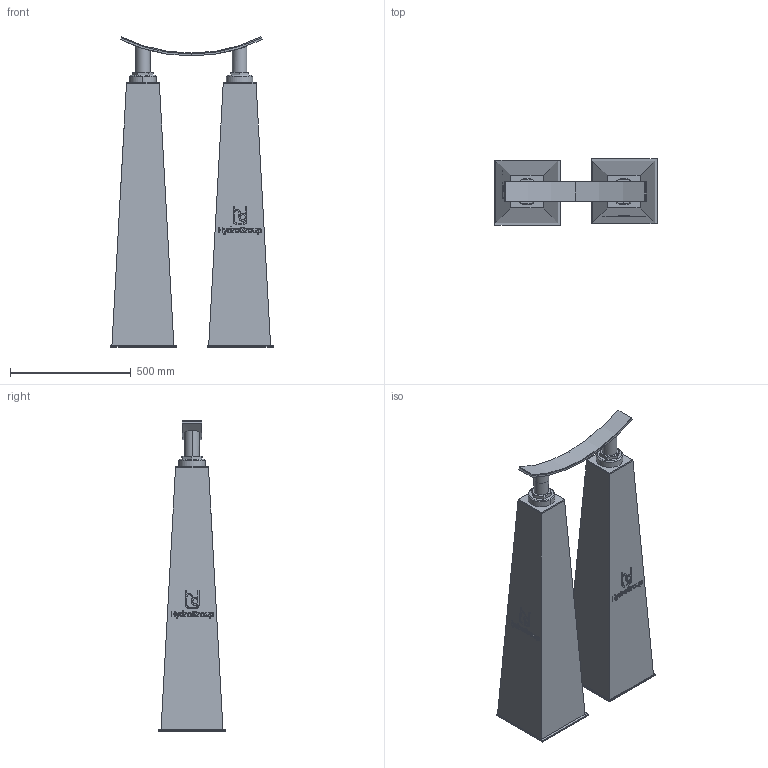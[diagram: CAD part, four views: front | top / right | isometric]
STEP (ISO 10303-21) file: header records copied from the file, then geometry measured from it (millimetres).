
FILE_DESCRIPTION(('STEP AP214'),'1');
FILE_NAME('RSRFE-IV-DUO_DN1300.stp','2018-06-29T11:52:06',(' '),(' '),'Spatial InterOp 3D',' ',' ');
FILE_SCHEMA(('automotive_design'));
Length unit declared in the file: millimetre
Products named in the file (10): 1; 2; 3; 4; 5; 6; 7; 8; 9; 10
Bounding box: 670 x 276.01 x 1282.08 mm (x, y, z)
Volume: 89797978.3 mm3; surface area: 2627198.4 mm2
Topology: 10 solids, 11 shells, 417 faces, 1034 edges, 676 vertices
Faces by surface type: plane 270, cylinder 69, extrusion 48, cone 30
Entity records: 17369 total; most frequent: CARTESIAN_POINT 4005, ORIENTED_EDGE 2068, DIRECTION 1868, EDGE_CURVE 1034, VECTOR 798, LINE 750, VERTEX_POINT 676, AXIS2_PLACEMENT_3D 535
